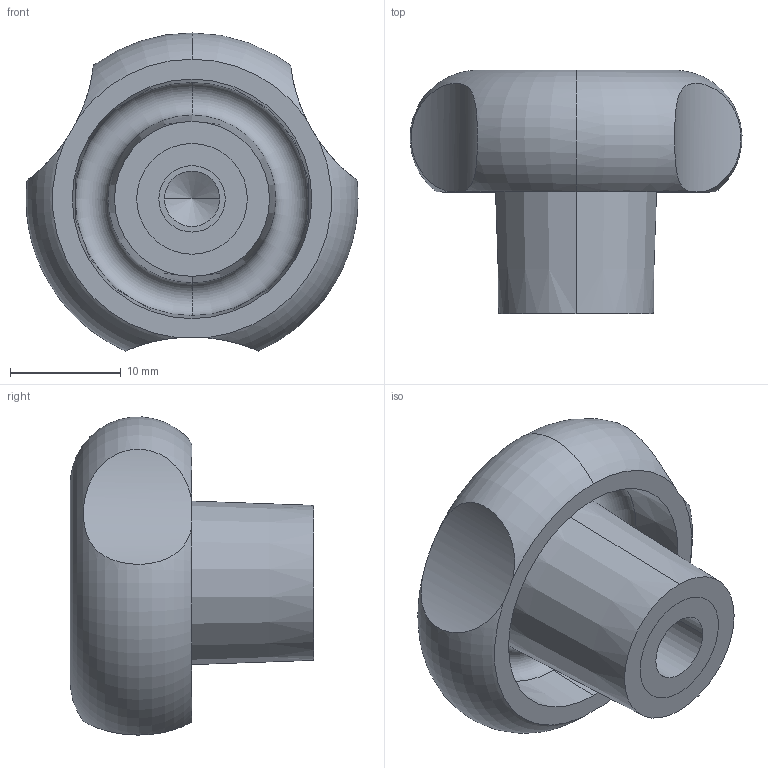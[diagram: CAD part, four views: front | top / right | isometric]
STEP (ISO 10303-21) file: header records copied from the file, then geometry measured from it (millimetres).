
FILE_DESCRIPTION (( 'STEP AP203' ), '1' );
FILE_NAME ('70580.W0060.step', '2017-10-27T09:56:14', ( '' ), ( '' ), 'SwSTEP 2.0', 'SolidWorks 2017', '' );
FILE_SCHEMA (( 'CONFIG_CONTROL_DESIGN' ));
Length unit declared in the file: millimetre
Products named in the file (3): 70580.W0060; Part2_70580.W0060; Part1_70580.W0060
Assembly tree (2 placements, depth 2):
  70580.W0060
    Part1_70580.W0060
    Part2_70580.W0060
Bounding box: 30 x 21.99 x 28.74 mm (x, y, z)
Volume: 6601.8 mm3; surface area: 4445.1 mm2
Topology: 2 solids, 2 shells, 30 faces, 65 edges, 41 vertices
Faces by surface type: cylinder 11, cone 6, plane 5, sphere 4, torus 4
Entity records: 1350 total; most frequent: CARTESIAN_POINT 364, DIRECTION 174, ORIENTED_EDGE 126, AXIS2_PLACEMENT_3D 80, EDGE_CURVE 63, CIRCLE 45, VERTEX_POINT 41, EDGE_LOOP 34
